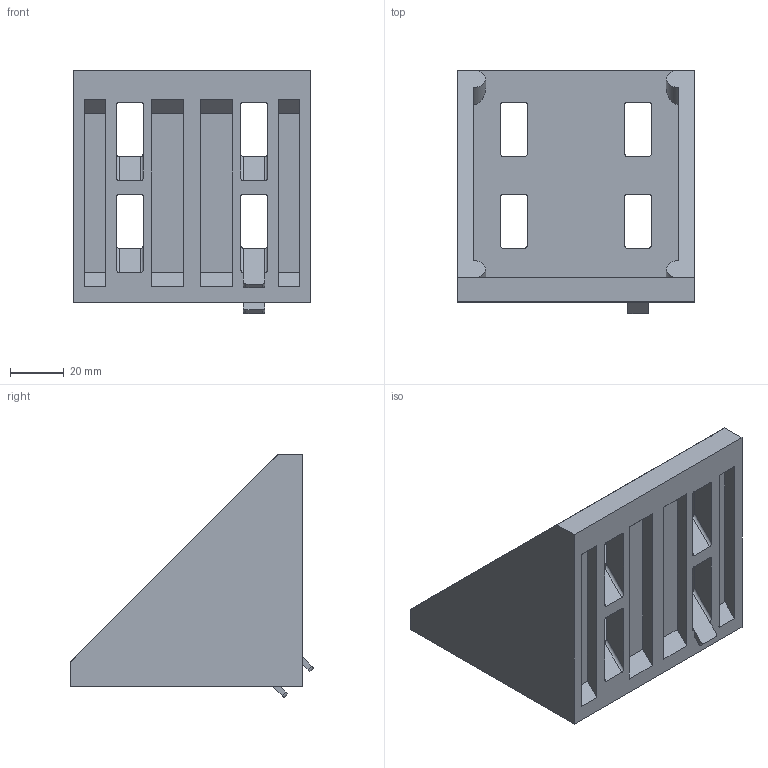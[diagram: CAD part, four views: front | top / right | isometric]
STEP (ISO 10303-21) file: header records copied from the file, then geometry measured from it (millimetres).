
FILE_DESCRIPTION (( 'STEP AP214' ), '1' );
FILE_NAME ('1075.STEP', '2015-05-05T03:58:50', ( 'user' ), ( '' ), 'SwSTEP 2.0', 'SolidWorks 2014', '' );
FILE_SCHEMA (( 'AUTOMOTIVE_DESIGN' ));
Length unit declared in the file: millimetre
Products named in the file (1): 1075
Bounding box: 88 x 90.24 x 90.24 mm (x, y, z)
Volume: 122238.7 mm3; surface area: 51410.7 mm2
Topology: 1 solids, 1 shells, 132 faces, 358 edges, 236 vertices
Faces by surface type: plane 92, cylinder 32, bspline 8
Entity records: 4616 total; most frequent: CARTESIAN_POINT 1331, ORIENTED_EDGE 716, DIRECTION 600, EDGE_CURVE 358, LINE 262, VECTOR 262, VERTEX_POINT 236, AXIS2_PLACEMENT_3D 169
